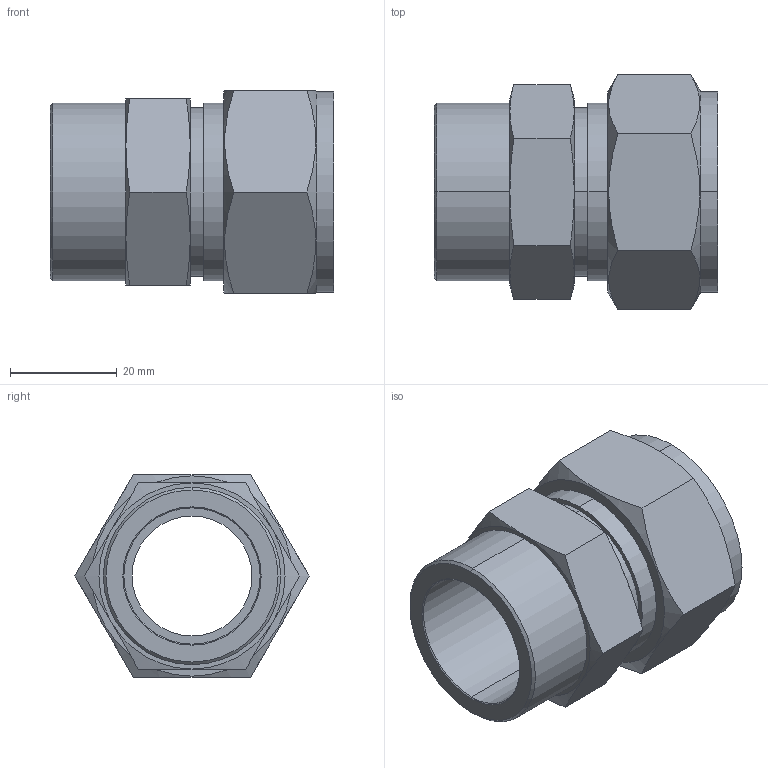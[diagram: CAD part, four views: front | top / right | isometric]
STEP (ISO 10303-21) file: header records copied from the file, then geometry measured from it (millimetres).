
FILE_DESCRIPTION (( 'STEP AP203' ), '1' );
FILE_NAME ('DCW16-16 SS.STEP', '2009-09-08T05:53:30', ( ' ' ), ( '' ), 'SwSTEP 2.0', 'SolidWorks 2008', '' );
FILE_SCHEMA (( 'CONFIG_CONTROL_DESIGN' ));
Length unit declared in the file: millimetre
Products named in the file (1): DCW16-16 SS
Bounding box: 53.2 x 43.99 x 38.1 mm (x, y, z)
Volume: 28799.3 mm3; surface area: 12526 mm2
Topology: 1 solids, 1 shells, 54 faces, 120 edges, 74 vertices
Faces by surface type: cone 20, plane 20, cylinder 14
Entity records: 1775 total; most frequent: CARTESIAN_POINT 537, ORIENTED_EDGE 240, DIRECTION 236, EDGE_CURVE 120, AXIS2_PLACEMENT_3D 101, VERTEX_POINT 74, EDGE_LOOP 62, ADVANCED_FACE 54
